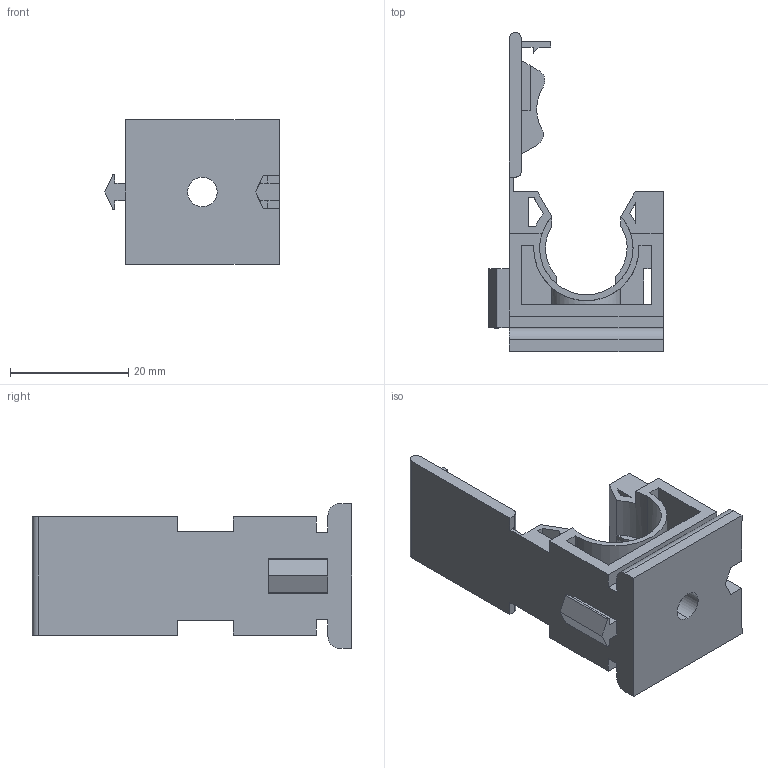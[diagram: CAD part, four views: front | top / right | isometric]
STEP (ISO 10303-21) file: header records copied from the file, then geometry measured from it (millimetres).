
FILE_DESCRIPTION (( 'STEP AP203' ), '1' );
FILE_NAME ('WQSC-AD15.8.STEP', '2016-03-25T04:30:51', ( '' ), ( '' ), 'SwSTEP 2.0', 'SolidWorks 2010', '' );
FILE_SCHEMA (( 'CONFIG_CONTROL_DESIGN' ));
Length unit declared in the file: millimetre
Products named in the file (1): WQSC-AD15.8
Bounding box: 29.5 x 54 x 24.5 mm (x, y, z)
Volume: 7657.6 mm3; surface area: 7337.3 mm2
Topology: 1 solids, 1 shells, 139 faces, 402 edges, 266 vertices
Faces by surface type: plane 103, cylinder 36
Entity records: 4778 total; most frequent: CARTESIAN_POINT 960, ORIENTED_EDGE 804, DIRECTION 751, EDGE_CURVE 402, LINE 317, VECTOR 317, VERTEX_POINT 266, AXIS2_PLACEMENT_3D 217
